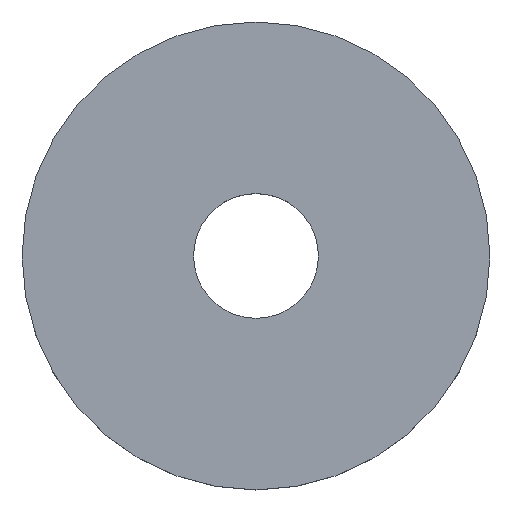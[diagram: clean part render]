
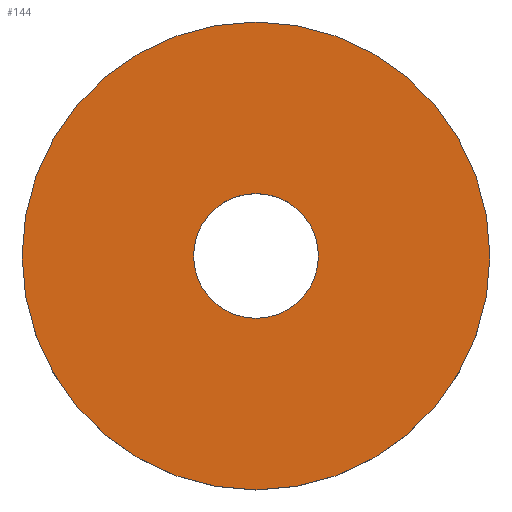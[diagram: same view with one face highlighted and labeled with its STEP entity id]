
A CAD part, top view. The second image highlights one B-rep face of the part: STEP entity #144.
In plain terms, the highlighted planar face has unit normal (0, 0, 1).
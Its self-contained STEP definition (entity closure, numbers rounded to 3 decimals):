
#24 = VERTEX_POINT('',#25);
#25 = CARTESIAN_POINT('',(51.5,10.,80.2));
#32 = CYLINDRICAL_SURFACE('',#33,4.5);
#33 = AXIS2_PLACEMENT_3D('',#34,#35,#36);
#34 = CARTESIAN_POINT('',(47.,10.,79.));
#35 = DIRECTION('',(-0.,-0.,-1.));
#36 = DIRECTION('',(1.,0.,0.));
#51 = EDGE_CURVE('',#24,#24,#52,.T.);
#52 = SURFACE_CURVE('',#53,(#58,#65),.PCURVE_S1.);
#53 = CIRCLE('',#54,4.5);
#54 = AXIS2_PLACEMENT_3D('',#55,#56,#57);
#55 = CARTESIAN_POINT('',(47.,10.,80.2));
#56 = DIRECTION('',(0.,0.,1.));
#57 = DIRECTION('',(1.,0.,0.));
#58 = PCURVE('',#32,#59);
#59 = DEFINITIONAL_REPRESENTATION('',(#60),#64);
#60 = LINE('',#61,#62);
#61 = CARTESIAN_POINT('',(-0.,-1.2));
#62 = VECTOR('',#63,1.);
#63 = DIRECTION('',(-1.,0.));
#64 = ( GEOMETRIC_REPRESENTATION_CONTEXT(2) 
PARAMETRIC_REPRESENTATION_CONTEXT() REPRESENTATION_CONTEXT('2D SPACE',''
  ) );
#65 = PCURVE('',#66,#71);
#66 = PLANE('',#67);
#67 = AXIS2_PLACEMENT_3D('',#68,#69,#70);
#68 = CARTESIAN_POINT('',(47.,10.,80.2));
#69 = DIRECTION('',(0.,0.,1.));
#70 = DIRECTION('',(1.,0.,-0.));
#71 = DEFINITIONAL_REPRESENTATION('',(#72),#76);
#72 = CIRCLE('',#73,4.5);
#73 = AXIS2_PLACEMENT_2D('',#74,#75);
#74 = CARTESIAN_POINT('',(0.,0.));
#75 = DIRECTION('',(1.,0.));
#76 = ( GEOMETRIC_REPRESENTATION_CONTEXT(2) 
PARAMETRIC_REPRESENTATION_CONTEXT() REPRESENTATION_CONTEXT('2D SPACE',''
  ) );
#133 = CYLINDRICAL_SURFACE('',#134,1.2);
#134 = AXIS2_PLACEMENT_3D('',#135,#136,#137);
#135 = CARTESIAN_POINT('',(47.,10.,78.));
#136 = DIRECTION('',(-0.,-0.,-1.));
#137 = DIRECTION('',(1.,0.,0.));
#144 = ADVANCED_FACE('',(#145,#148),#66,.T.);
#145 = FACE_BOUND('',#146,.T.);
#146 = EDGE_LOOP('',(#147));
#147 = ORIENTED_EDGE('',*,*,#51,.T.);
#148 = FACE_BOUND('',#149,.T.);
#149 = EDGE_LOOP('',(#150));
#150 = ORIENTED_EDGE('',*,*,#151,.T.);
#151 = EDGE_CURVE('',#152,#152,#154,.T.);
#152 = VERTEX_POINT('',#153);
#153 = CARTESIAN_POINT('',(48.2,10.,80.2));
#154 = SURFACE_CURVE('',#155,(#160,#171),.PCURVE_S1.);
#155 = CIRCLE('',#156,1.2);
#156 = AXIS2_PLACEMENT_3D('',#157,#158,#159);
#157 = CARTESIAN_POINT('',(47.,10.,80.2));
#158 = DIRECTION('',(0.,0.,-1.));
#159 = DIRECTION('',(1.,0.,0.));
#160 = PCURVE('',#66,#161);
#161 = DEFINITIONAL_REPRESENTATION('',(#162),#170);
#162 = ( BOUNDED_CURVE() B_SPLINE_CURVE(2,(#163,#164,#165,#166,#167,#168
,#169),.UNSPECIFIED.,.T.,.F.) B_SPLINE_CURVE_WITH_KNOTS((1,2,2,2,2,1),(
    -2.094,0.,2.094,4.189,6.283,
8.378),.UNSPECIFIED.) CURVE() GEOMETRIC_REPRESENTATION_ITEM() 
RATIONAL_B_SPLINE_CURVE((1.,0.5,1.,0.5,1.,0.5,1.)) REPRESENTATION_ITEM(
  '') );
#163 = CARTESIAN_POINT('',(1.2,0.));
#164 = CARTESIAN_POINT('',(1.2,-2.078));
#165 = CARTESIAN_POINT('',(-0.6,-1.039));
#166 = CARTESIAN_POINT('',(-2.4,0.));
#167 = CARTESIAN_POINT('',(-0.6,1.039));
#168 = CARTESIAN_POINT('',(1.2,2.078));
#169 = CARTESIAN_POINT('',(1.2,0.));
#170 = ( GEOMETRIC_REPRESENTATION_CONTEXT(2) 
PARAMETRIC_REPRESENTATION_CONTEXT() REPRESENTATION_CONTEXT('2D SPACE',''
  ) );
#171 = PCURVE('',#133,#172);
#172 = DEFINITIONAL_REPRESENTATION('',(#173),#177);
#173 = LINE('',#174,#175);
#174 = CARTESIAN_POINT('',(-6.283,-2.2));
#175 = VECTOR('',#176,1.);
#176 = DIRECTION('',(1.,-0.));
#177 = ( GEOMETRIC_REPRESENTATION_CONTEXT(2) 
PARAMETRIC_REPRESENTATION_CONTEXT() REPRESENTATION_CONTEXT('2D SPACE',''
  ) );
